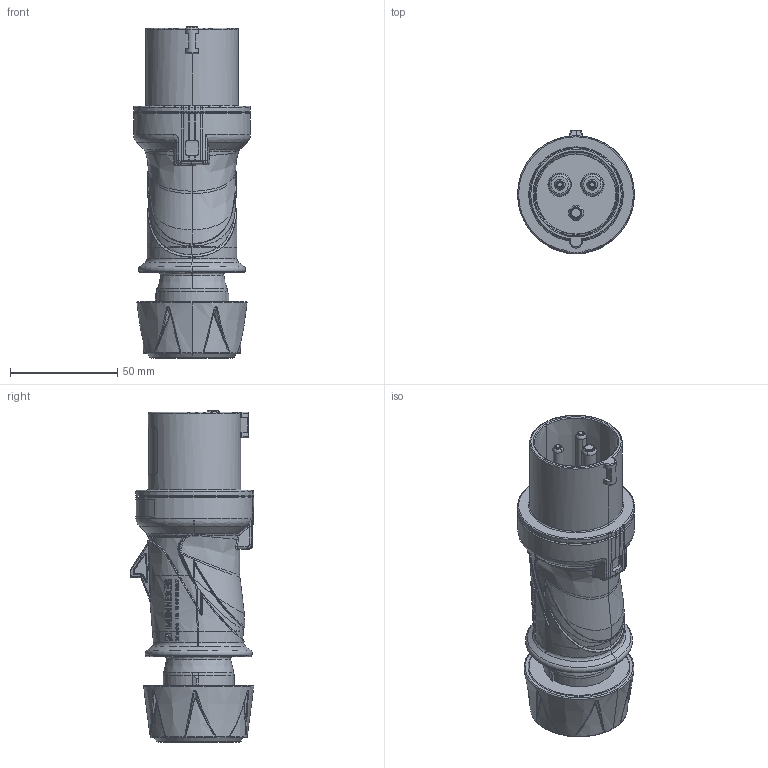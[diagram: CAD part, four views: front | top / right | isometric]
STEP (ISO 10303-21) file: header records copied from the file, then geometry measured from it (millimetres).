
FILE_DESCRIPTION((''),'2;1');
FILE_NAME('13521_SW0003','2021-02-24T08:38:53',('schlabachr'),('MENNEKES'),'CREO PARAMETRIC BY PTC INC, 2019080','CREO PARAMETRIC BY PTC INC, 2019080','');
FILE_SCHEMA(('AUTOMOTIVE_DESIGN { 1 0 10303 214 1 1 1 1 }'));
Products named in the file (1): 13521_SW0003
Bounding box: 54.6 x 57.75 x 155 mm (x, y, z)
Volume: 194411.9 mm3; surface area: 37844.2 mm2
Topology: 1 solids, 1 shells, 1649 faces, 4228 edges, 2655 vertices
Faces by surface type: bspline 1240, extrusion 148, cylinder 79, plane 78, torus 60, cone 40, sphere 4
Entity records: 114857 total; most frequent: CARTESIAN_POINT 65200, ORIENTED_EDGE 8456, EDGE_CURVE 4228, B_SPLINE_CURVE_WITH_KNOTS 3193, FILL_AREA_STYLE_COLOUR 3083, FILL_AREA_STYLE 3083, SURFACE_STYLE_FILL_AREA 3083, SURFACE_SIDE_STYLE 3083
